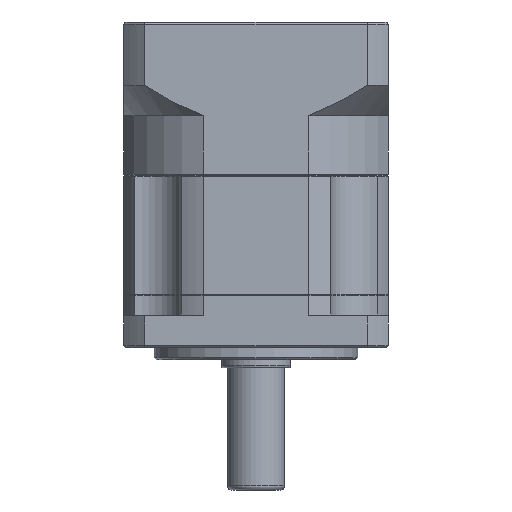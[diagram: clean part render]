
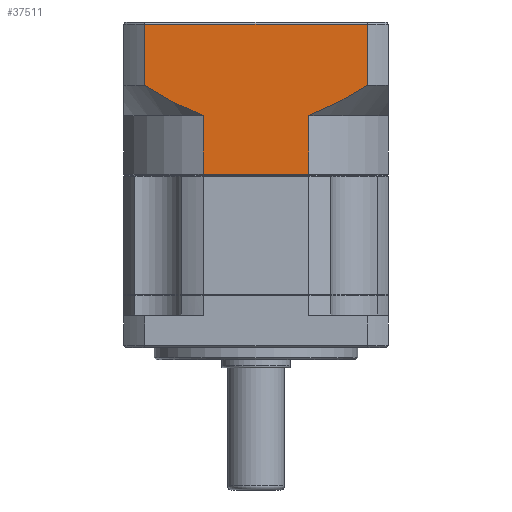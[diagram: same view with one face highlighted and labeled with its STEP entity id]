
A CAD part, front view. The second image highlights one B-rep face of the part: STEP entity #37511.
In plain terms, the highlighted planar face has unit normal (0, -1, 0).
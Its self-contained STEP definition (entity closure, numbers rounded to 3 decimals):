
#548 = CARTESIAN_POINT ( 'NONE',  ( 52.71, -33.003, 46.392 ) ) ;
#1360 = CARTESIAN_POINT ( 'NONE',  ( 0.988, -33.003, 63.548 ) ) ;
#5582 = DIRECTION ( 'NONE',  ( -1., 0., 0. ) ) ;
#6191 = B_SPLINE_CURVE_WITH_KNOTS ( 'NONE', 3,
 ( #33930, #25701, #75123, #42276, #99903, #50656, #1360, #58984, #9548, #67235 ),
 .UNSPECIFIED., .F., .F.,
 ( 4, 2, 2, 2, 4 ),
 ( 0.101, 0.104, 0.106, 0.11, 0.118 ),
 .UNSPECIFIED. ) ;
#7656 = CARTESIAN_POINT ( 'NONE',  ( -7.176, -33.003, 83.303 ) ) ;
#9548 = CARTESIAN_POINT ( 'NONE',  ( -4.907, -33.003, 66.841 ) ) ;
#10324 = CARTESIAN_POINT ( 'NONE',  ( 47.596, -33.003, 83.303 ) ) ;
#12534 = EDGE_CURVE ( 'NONE', #85988, #91680, #13415, .T. ) ;
#13415 = B_SPLINE_CURVE_WITH_KNOTS ( 'NONE', 3,
 ( #14839, #20382, #15096, #14613, #14529, #14413, #14402, #14270 ),
 .UNSPECIFIED., .F., .F.,
 ( 4, 2, 2, 4 ),
 ( 0.059, 0.063, 0.067, 0.075 ),
 .UNSPECIFIED. ) ;
#14270 = CARTESIAN_POINT ( 'NONE',  ( 33.2, -33.003, 60.803 ) ) ;
#14402 = CARTESIAN_POINT ( 'NONE',  ( 35.739, -33.003, 61.746 ) ) ;
#14413 = CARTESIAN_POINT ( 'NONE',  ( 38.191, -33.003, 62.89 ) ) ;
#14529 = CARTESIAN_POINT ( 'NONE',  ( 41.785, -33.003, 64.799 ) ) ;
#14613 = CARTESIAN_POINT ( 'NONE',  ( 42.97, -33.003, 65.469 ) ) ;
#14839 = CARTESIAN_POINT ( 'NONE',  ( 47.596, -33.003, 68.303 ) ) ;
#15096 = CARTESIAN_POINT ( 'NONE',  ( 45.306, -33.003, 66.854 ) ) ;
#15363 = VECTOR ( 'NONE', #67776, 1000. ) ;
#15697 = DIRECTION ( 'NONE',  ( 0., 0., 1. ) ) ;
#20382 = CARTESIAN_POINT ( 'NONE',  ( 46.458, -33.003, 67.57 ) ) ;
#23886 = EDGE_CURVE ( 'NONE', #84812, #90433, #96354, .T. ) ;
#24398 = VECTOR ( 'NONE', #73363, 1000. ) ;
#24829 = DIRECTION ( 'NONE',  ( 1., 0., 0. ) ) ;
#25701 = CARTESIAN_POINT ( 'NONE',  ( 6.577, -33.003, 61.042 ) ) ;
#26203 = DIRECTION ( 'NONE',  ( -1., 0., 0. ) ) ;
#26307 = DIRECTION ( 'NONE',  ( 0., 1., 0. ) ) ;
#26328 = CARTESIAN_POINT ( 'NONE',  ( 52.71, -33.003, 83.803 ) ) ;
#27300 = PLANE ( 'NONE',  #73345 ) ;
#28005 = VECTOR ( 'NONE', #5582, 1000. ) ;
#33930 = CARTESIAN_POINT ( 'NONE',  ( 7.22, -33.003, 60.803 ) ) ;
#34319 = ORIENTED_EDGE ( 'NONE', *, *, #99695, .F. ) ;
#34481 = CARTESIAN_POINT ( 'NONE',  ( -7.176, -33.003, 83.303 ) ) ;
#35010 = CARTESIAN_POINT ( 'NONE',  ( 7.22, -33.003, 60.803 ) ) ;
#36038 = CARTESIAN_POINT ( 'NONE',  ( 7.22, -33.003, 46.392 ) ) ;
#36282 = LINE ( 'NONE', #55794, #99480 ) ;
#37225 = LINE ( 'NONE', #42845, #15363 ) ;
#37511 = ADVANCED_FACE ( 'NONE', ( #65158 ), #27300, .F. ) ;
#39003 = DIRECTION ( 'NONE',  ( 0., 0., 1. ) ) ;
#40116 = CARTESIAN_POINT ( 'NONE',  ( 47.596, -33.003, 65.803 ) ) ;
#42276 = CARTESIAN_POINT ( 'NONE',  ( 4.678, -33.003, 61.82 ) ) ;
#42845 = CARTESIAN_POINT ( 'NONE',  ( 33.2, -33.003, 60.803 ) ) ;
#46551 = VECTOR ( 'NONE', #24829, 1000. ) ;
#46775 = ORIENTED_EDGE ( 'NONE', *, *, #23886, .T. ) ;
#47368 = ORIENTED_EDGE ( 'NONE', *, *, #66157, .F. ) ;
#47926 = ORIENTED_EDGE ( 'NONE', *, *, #67593, .F. ) ;
#50656 = CARTESIAN_POINT ( 'NONE',  ( 2.201, -33.003, 62.943 ) ) ;
#50672 = CARTESIAN_POINT ( 'NONE',  ( 33.2, -33.003, 46.392 ) ) ;
#51754 = EDGE_LOOP ( 'NONE', ( #34319, #46775, #47368, #47926, #72419, #73853, #81190, #93872 ) ) ;
#54837 = EDGE_CURVE ( 'NONE', #86727, #96276, #68514, .T. ) ;
#55794 = CARTESIAN_POINT ( 'NONE',  ( -7.176, -33.003, 65.803 ) ) ;
#58984 = CARTESIAN_POINT ( 'NONE',  ( -2.592, -33.003, 65.453 ) ) ;
#65158 = FACE_OUTER_BOUND ( 'NONE', #51754, .T. ) ;
#66157 = EDGE_CURVE ( 'NONE', #88450, #90433, #36282, .T. ) ;
#67235 = CARTESIAN_POINT ( 'NONE',  ( -7.176, -33.003, 68.303 ) ) ;
#67593 = EDGE_CURVE ( 'NONE', #83801, #88450, #6191, .T. ) ;
#67776 = DIRECTION ( 'NONE',  ( 0., 0., -1. ) ) ;
#68514 = LINE ( 'NONE', #548, #46551 ) ;
#72419 = ORIENTED_EDGE ( 'NONE', *, *, #99411, .F. ) ;
#73345 = AXIS2_PLACEMENT_3D ( 'NONE', #26328, #26307, #26203 ) ;
#73363 = DIRECTION ( 'NONE',  ( 0., 0., -1. ) ) ;
#73853 = ORIENTED_EDGE ( 'NONE', *, *, #54837, .T. ) ;
#75123 = CARTESIAN_POINT ( 'NONE',  ( 5.938, -33.003, 61.294 ) ) ;
#78227 = EDGE_CURVE ( 'NONE', #91680, #96276, #37225, .T. ) ;
#81190 = ORIENTED_EDGE ( 'NONE', *, *, #78227, .F. ) ;
#81589 = CARTESIAN_POINT ( 'NONE',  ( 7.22, -33.003, 60.803 ) ) ;
#83801 = VERTEX_POINT ( 'NONE', #35010 ) ;
#84812 = VERTEX_POINT ( 'NONE', #10324 ) ;
#84998 = CARTESIAN_POINT ( 'NONE',  ( -7.176, -33.003, 68.303 ) ) ;
#85988 = VERTEX_POINT ( 'NONE', #103232 ) ;
#86520 = LINE ( 'NONE', #81589, #105714 ) ;
#86727 = VERTEX_POINT ( 'NONE', #36038 ) ;
#88450 = VERTEX_POINT ( 'NONE', #84998 ) ;
#90219 = LINE ( 'NONE', #40116, #24398 ) ;
#90433 = VERTEX_POINT ( 'NONE', #34481 ) ;
#91680 = VERTEX_POINT ( 'NONE', #95852 ) ;
#93872 = ORIENTED_EDGE ( 'NONE', *, *, #12534, .F. ) ;
#95852 = CARTESIAN_POINT ( 'NONE',  ( 33.2, -33.003, 60.803 ) ) ;
#96276 = VERTEX_POINT ( 'NONE', #50672 ) ;
#96354 = LINE ( 'NONE', #7656, #28005 ) ;
#99411 = EDGE_CURVE ( 'NONE', #86727, #83801, #86520, .T. ) ;
#99480 = VECTOR ( 'NONE', #39003, 1000. ) ;
#99695 = EDGE_CURVE ( 'NONE', #84812, #85988, #90219, .T. ) ;
#99903 = CARTESIAN_POINT ( 'NONE',  ( 4.054, -33.003, 62.093 ) ) ;
#103232 = CARTESIAN_POINT ( 'NONE',  ( 47.596, -33.003, 68.303 ) ) ;
#105714 = VECTOR ( 'NONE', #15697, 1000. ) ;
